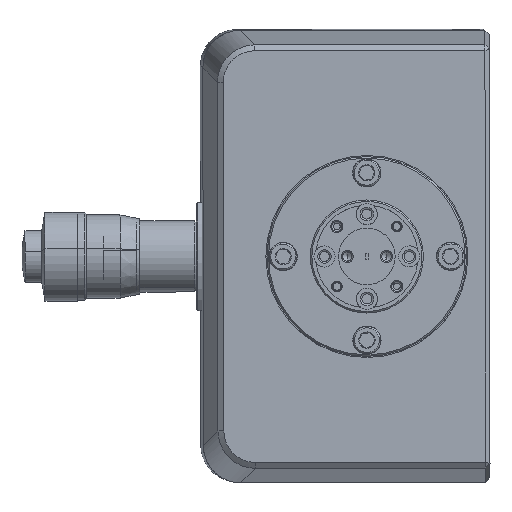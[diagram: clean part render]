
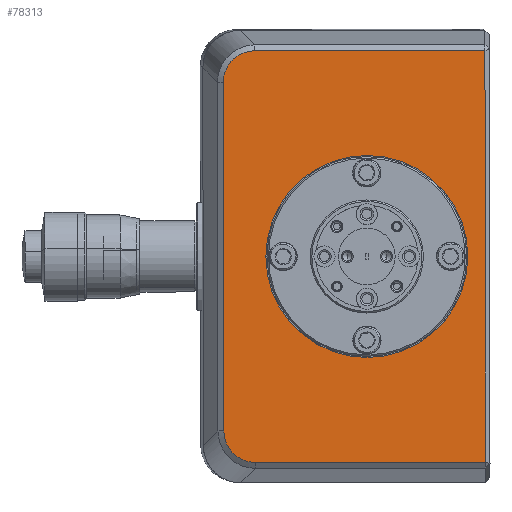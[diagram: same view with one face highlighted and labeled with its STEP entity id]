
A CAD part, left-side view. The second image highlights one B-rep face of the part: STEP entity #78313.
In plain terms, the highlighted planar face has unit normal (-1, -0.002, -0.001).
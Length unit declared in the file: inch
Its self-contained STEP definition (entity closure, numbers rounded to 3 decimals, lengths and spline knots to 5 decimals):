
#490 = EDGE_LOOP ( 'NONE', ( #15193, #9102, #26655, #9195, #94383, #37195 ) ) ;
#3784 = CARTESIAN_POINT ( 'NONE',  ( -3.34498, -6.81907, 0.04042 ) ) ;
#4560 = VECTOR ( 'NONE', #11966, 39.37008 ) ;
#5036 = CARTESIAN_POINT ( 'NONE',  ( -3.34391, -6.6684, -2.47558 ) ) ;
#5862 = FACE_BOUND ( 'NONE', #118333, .T. ) ;
#6236 = VECTOR ( 'NONE', #68647, 39.37008 ) ;
#6937 = DIRECTION ( 'NONE',  ( -0.001, 0.001, 1. ) ) ;
#8642 = DIRECTION ( 'NONE',  ( -0.001, 0.001, 1. ) ) ;
#9102 = ORIENTED_EDGE ( 'NONE', *, *, #12114, .T. ) ;
#9170 = DIRECTION ( 'NONE',  ( -0.001, 0.001, 1. ) ) ;
#9195 = ORIENTED_EDGE ( 'NONE', *, *, #73317, .T. ) ;
#10249 = CARTESIAN_POINT ( 'NONE',  ( -3.34391, -6.6684, -2.47558 ) ) ;
#11966 = DIRECTION ( 'NONE',  ( 0.002, -1., 0.001 ) ) ;
#12114 = EDGE_CURVE ( 'NONE', #12255, #109551, #83985, .T. ) ;
#12255 = VERTEX_POINT ( 'NONE', #92893 ) ;
#13359 = CARTESIAN_POINT ( 'NONE',  ( -3.34504, -6.76862, 0.01956 ) ) ;
#15193 = ORIENTED_EDGE ( 'NONE', *, *, #60084, .T. ) ;
#15276 = VERTEX_POINT ( 'NONE', #87236 ) ;
#15437 = FACE_OUTER_BOUND ( 'NONE', #490, .T. ) ;
#22895 = CARTESIAN_POINT ( 'NONE',  ( -3.34512, -6.66536, -0.13572 ) ) ;
#26655 = ORIENTED_EDGE ( 'NONE', *, *, #46687, .T. ) ;
#26988 = CARTESIAN_POINT ( 'NONE',  ( -3.34356, -6.82259, -2.67887 ) ) ;
#28405 = CARTESIAN_POINT ( 'NONE',  ( -3.3418, -8.40197, -1.31717 ) ) ;
#31344 = CARTESIAN_POINT ( 'NONE',  ( -3.34512, -6.6915, -0.05777 ) ) ;
#35961 = CARTESIAN_POINT ( 'NONE',  ( -3.34381, -6.69476, -2.58101 ) ) ;
#37195 = ORIENTED_EDGE ( 'NONE', *, *, #118745, .T. ) ;
#38291 = CARTESIAN_POINT ( 'NONE',  ( -3.34252, -7.48374, -2.68344 ) ) ;
#40700 = CARTESIAN_POINT ( 'NONE',  ( -3.34511, -6.6654, -0.16327 ) ) ;
#40910 = CARTESIAN_POINT ( 'NONE',  ( -3.34511, -6.70695, -0.03451 ) ) ;
#43602 = ORIENTED_EDGE ( 'NONE', *, *, #101852, .F. ) ;
#45587 = CARTESIAN_POINT ( 'NONE',  ( -3.34109, -8.40374, -2.68225 ) ) ;
#46628 = VERTEX_POINT ( 'NONE', #52415 ) ;
#46687 = EDGE_CURVE ( 'NONE', #109551, #46628, #90907, .T. ) ;
#52415 = CARTESIAN_POINT ( 'NONE',  ( -3.34251, -8.4002, 0.0479 ) ) ;
#52421 = LINE ( 'NONE', #105330, #6236 ) ;
#53325 = AXIS2_PLACEMENT_3D ( 'NONE', #62567, #91399, #9170 ) ;
#53984 = CARTESIAN_POINT ( 'NONE',  ( -3.34389, -6.66843, -2.50307 ) ) ;
#54029 = VERTEX_POINT ( 'NONE', #40700 ) ;
#54958 = AXIS2_PLACEMENT_3D ( 'NONE', #116774, #115011, #6937 ) ;
#55905 = EDGE_CURVE ( 'NONE', #15276, #54029, #84108, .T. ) ;
#56277 = CARTESIAN_POINT ( 'NONE',  ( -3.34451, -6.6669, -1.31942 ) ) ;
#56860 = LINE ( 'NONE', #56277, #95349 ) ;
#57198 = CIRCLE ( 'NONE', #53325, 0.67 ) ;
#60084 = EDGE_CURVE ( 'NONE', #102612, #12255, #85245, .T. ) ;
#62567 = CARTESIAN_POINT ( 'NONE',  ( -3.34302, -7.61697, -1.31819 ) ) ;
#65553 = AXIS2_PLACEMENT_3D ( 'NONE', #116285, #108466, #70012 ) ;
#67333 = CARTESIAN_POINT ( 'NONE',  ( -3.34507, -6.74541, 0.00403 ) ) ;
#67936 = CARTESIAN_POINT ( 'NONE',  ( -3.34511, -6.6654, -0.16327 ) ) ;
#68647 = DIRECTION ( 'NONE',  ( -0.002, 1., -0.001 ) ) ;
#70012 = DIRECTION ( 'NONE',  ( 0.001, -0.001, -1. ) ) ;
#72621 = CARTESIAN_POINT ( 'NONE',  ( -3.34369, -6.74883, -2.64268 ) ) ;
#73317 = EDGE_CURVE ( 'NONE', #46628, #15276, #52421, .T. ) ;
#76939 = CARTESIAN_POINT ( 'NONE',  ( -3.34513, -6.67076, -0.10827 ) ) ;
#78313 = ADVANCED_FACE ( 'NONE', ( #15437, #5862 ), #80812, .F. ) ;
#79722 = EDGE_CURVE ( 'NONE', #105532, #85185, #57198, .T. ) ;
#80812 = PLANE ( 'NONE',  #65553 ) ;
#83445 = CARTESIAN_POINT ( 'NONE',  ( -3.34347, -6.87759, -2.68423 ) ) ;
#83985 = LINE ( 'NONE', #38291, #4560 ) ;
#84108 = B_SPLINE_CURVE_WITH_KNOTS ( 'NONE', 3,
 ( #96207, #104032, #3784, #13359, #67333, #40910, #31344, #76939, #22895, #67936 ),
 .UNSPECIFIED., .F., .F.,
 ( 4, 2, 2, 2, 4 ),
 ( 0., 0.25, 0.5, 0.75, 1. ),
 .UNSPECIFIED. ) ;
#85185 = VERTEX_POINT ( 'NONE', #116426 ) ;
#85245 = B_SPLINE_CURVE_WITH_KNOTS ( 'NONE', 3,
 ( #10249, #53984, #118316, #35961, #117736, #72621, #109288, #26988, #90706, #83445 ),
 .UNSPECIFIED., .F., .F.,
 ( 4, 2, 2, 2, 4 ),
 ( 0., 0.25, 0.5, 0.75, 1. ),
 .UNSPECIFIED. ) ;
#87236 = CARTESIAN_POINT ( 'NONE',  ( -3.34489, -6.87405, 0.04592 ) ) ;
#90706 = CARTESIAN_POINT ( 'NONE',  ( -3.34351, -6.85004, -2.68427 ) ) ;
#90907 = LINE ( 'NONE', #28405, #106076 ) ;
#91399 = DIRECTION ( 'NONE',  ( -1., -0.002, -0.001 ) ) ;
#92893 = CARTESIAN_POINT ( 'NONE',  ( -3.34347, -6.87759, -2.68423 ) ) ;
#94284 = CARTESIAN_POINT ( 'NONE',  ( -3.34267, -7.61784, -1.98819 ) ) ;
#94383 = ORIENTED_EDGE ( 'NONE', *, *, #55905, .T. ) ;
#95310 = CIRCLE ( 'NONE', #54958, 0.67 ) ;
#95349 = VECTOR ( 'NONE', #110971, 39.37008 ) ;
#96207 = CARTESIAN_POINT ( 'NONE',  ( -3.34489, -6.87405, 0.04592 ) ) ;
#101852 = EDGE_CURVE ( 'NONE', #85185, #105532, #95310, .T. ) ;
#102612 = VERTEX_POINT ( 'NONE', #5036 ) ;
#104032 = CARTESIAN_POINT ( 'NONE',  ( -3.34494, -6.84656, 0.04589 ) ) ;
#104335 = ORIENTED_EDGE ( 'NONE', *, *, #79722, .F. ) ;
#105330 = CARTESIAN_POINT ( 'NONE',  ( -3.34394, -7.4802, 0.04671 ) ) ;
#105532 = VERTEX_POINT ( 'NONE', #94284 ) ;
#106076 = VECTOR ( 'NONE', #8642, 39.37008 ) ;
#108466 = DIRECTION ( 'NONE',  ( 1., 0.002, 0.001 ) ) ;
#109288 = CARTESIAN_POINT ( 'NONE',  ( -3.34365, -6.77209, -2.65813 ) ) ;
#109551 = VERTEX_POINT ( 'NONE', #45587 ) ;
#110971 = DIRECTION ( 'NONE',  ( 0.001, -0.001, -1. ) ) ;
#115011 = DIRECTION ( 'NONE',  ( -1., -0.002, -0.001 ) ) ;
#116285 = CARTESIAN_POINT ( 'NONE',  ( -3.34323, -7.48197, -1.31837 ) ) ;
#116426 = CARTESIAN_POINT ( 'NONE',  ( -3.34337, -7.6161, -0.64819 ) ) ;
#116774 = CARTESIAN_POINT ( 'NONE',  ( -3.34302, -7.61697, -1.31819 ) ) ;
#117736 = CARTESIAN_POINT ( 'NONE',  ( -3.34377, -6.71028, -2.60422 ) ) ;
#118316 = CARTESIAN_POINT ( 'NONE',  ( -3.34387, -6.6739, -2.53056 ) ) ;
#118333 = EDGE_LOOP ( 'NONE', ( #43602, #104335 ) ) ;
#118745 = EDGE_CURVE ( 'NONE', #54029, #102612, #56860, .T. ) ;
